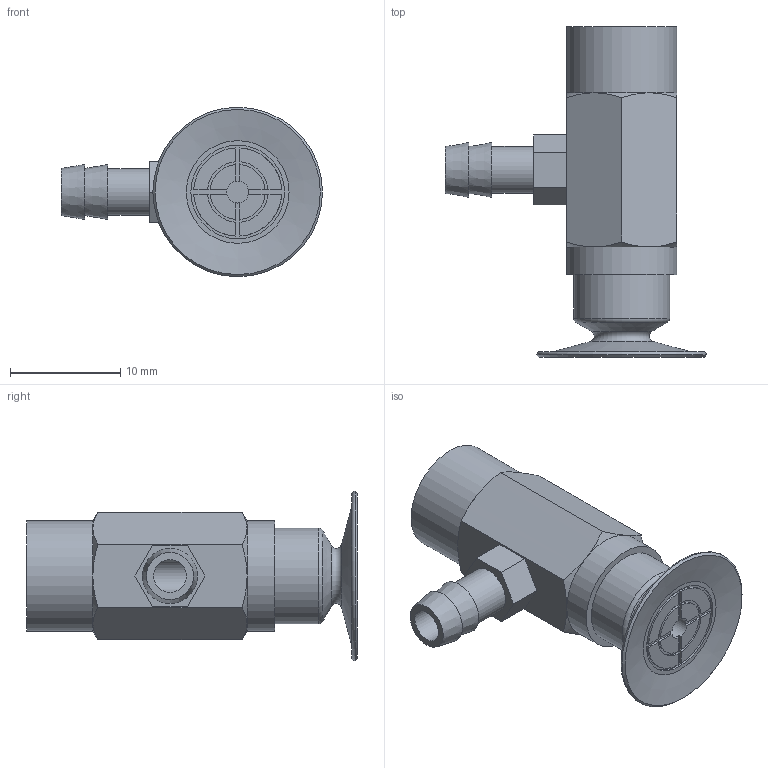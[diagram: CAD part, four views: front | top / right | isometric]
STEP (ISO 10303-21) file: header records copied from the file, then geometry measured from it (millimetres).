
FILE_DESCRIPTION(('STEP AP203'),'1');
FILE_NAME('.stp','2024-08-09T02:34:18',(' '),(' '),'Spatial InterOp 3D',' ',' ');
FILE_SCHEMA(('CONFIG_CONTROL_DESIGN'));
Length unit declared in the file: millimetre
Products named in the file (3): BBPAYK-15B-※; BPAYK-15B; BPAG-15B-※
Assembly tree (2 placements, depth 2):
  BBPAYK-15B-※
    BPAYK-15B
    BPAG-15B-※
Bounding box: 23.7 x 30 x 15.4 mm (x, y, z)
Volume: 2168.1 mm3; surface area: 2289 mm2
Topology: 2 solids, 2 shells, 115 faces, 263 edges, 161 vertices
Faces by surface type: plane 48, cone 30, cylinder 27, torus 10
Full cylindrical faces by diameter (mm): 2 x1, 3 x2, 3.242 x1, 4 x2, 4.26 x1, 5 x1, 6 x2, 8.5 x1, 8.7 x1, 10 x2
Entity records: 3326 total; most frequent: CARTESIAN_POINT 831, DIRECTION 494, ORIENTED_EDGE 430, EDGE_CURVE 215, AXIS2_PLACEMENT_3D 204, EDGE_LOOP 161, VERTEX_POINT 149, FACE_OUTER_BOUND 138
